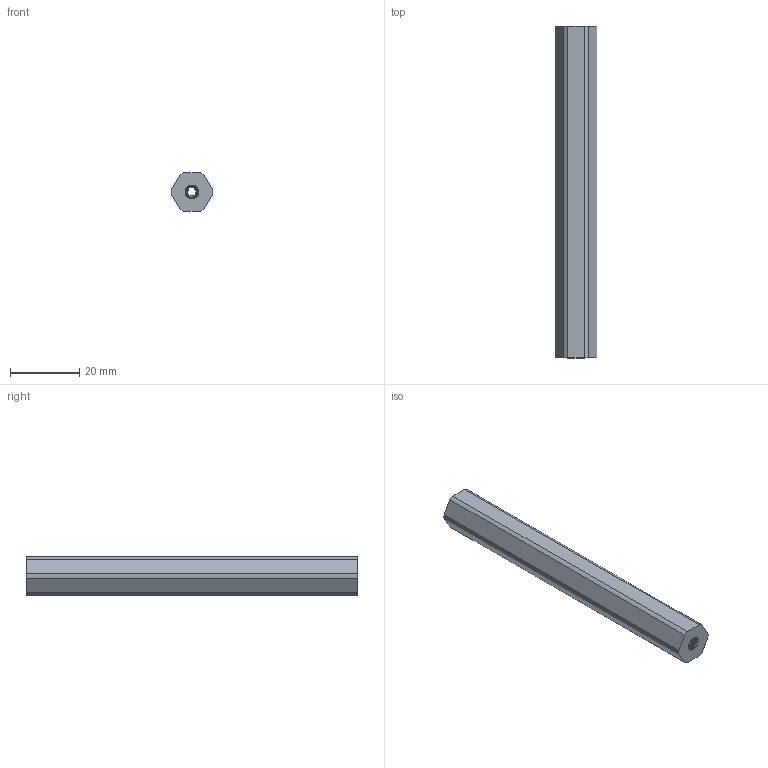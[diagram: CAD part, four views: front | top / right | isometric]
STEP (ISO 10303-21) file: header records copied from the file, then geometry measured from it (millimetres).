
FILE_DESCRIPTION (( 'STEP AP203' ), '1' );
FILE_NAME ('2104-0012-0096.STEP', '2018-03-09T17:41:40', ( '' ), ( '' ), 'SwSTEP 2.0', 'SolidWorks 2016', '' );
FILE_SCHEMA (( 'CONFIG_CONTROL_DESIGN' ));
Length unit declared in the file: millimetre
Products named in the file (1): 2104-0012-0096
Bounding box: 11.99 x 96 x 11 mm (x, y, z)
Volume: 9061.1 mm3; surface area: 4931.4 mm2
Topology: 1 solids, 1 shells, 190 faces, 558 edges, 370 vertices
Faces by surface type: cylinder 168, plane 10, cone 8, bspline 4
Entity records: 11993 total; most frequent: CARTESIAN_POINT 7843, ORIENTED_EDGE 1116, DIRECTION 624, EDGE_CURVE 558, VERTEX_POINT 370, AXIS2_PLACEMENT_3D 217, EDGE_LOOP 192, ADVANCED_FACE 190
